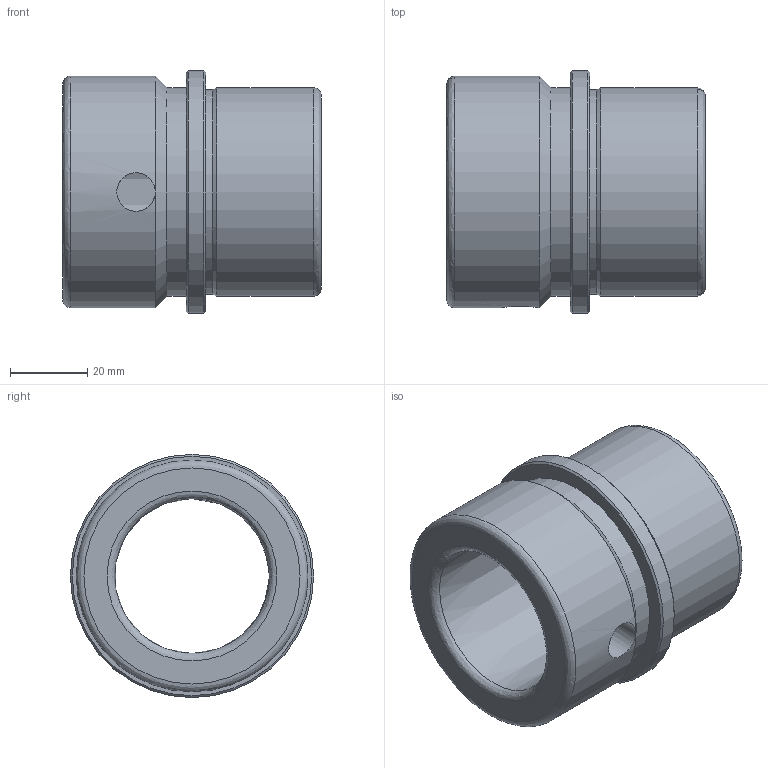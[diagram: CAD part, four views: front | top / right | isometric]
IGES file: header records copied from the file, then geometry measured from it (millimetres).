
Global section: file name: BE40M.ipt; native system: Autodesk Inventor 2021; preprocessor: unknown; author: SM; date: 20211217.140833; units: millimetre
Bounding box: 67 x 63 x 63 mm (x, y, z)
Volume: 85506.2 mm3; surface area: 24504.9 mm2
Topology: 1 solids, 1 shells, 19 faces, 50 edges, 33 vertices
Faces by surface type: revolution 6, cylinder 5, plane 4, cone 4
Full cylindrical faces by diameter (mm): 53 x1, 54 x2, 60 x1, 63 x1
